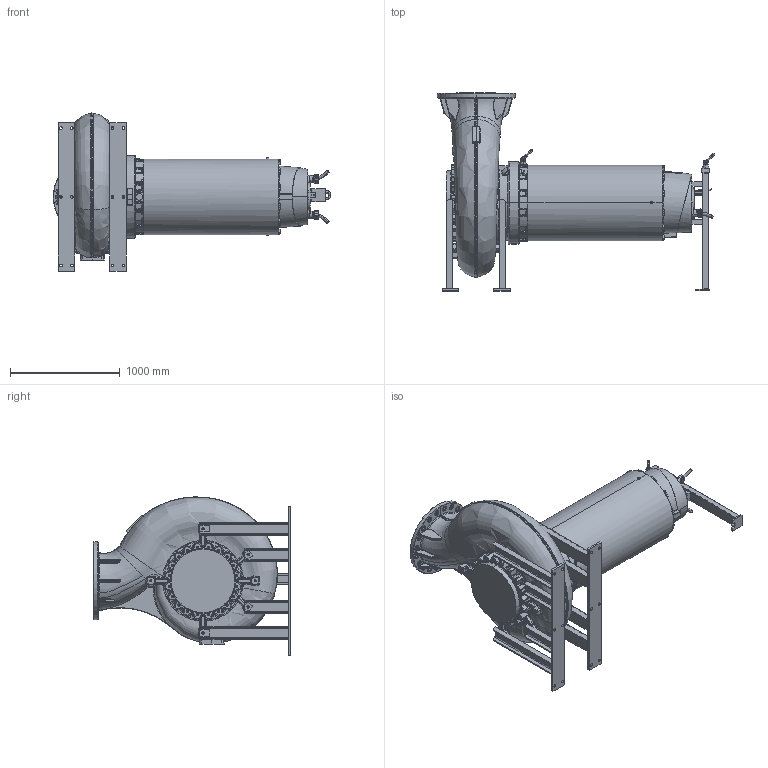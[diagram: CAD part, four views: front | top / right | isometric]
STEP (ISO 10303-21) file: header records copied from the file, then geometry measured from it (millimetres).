
FILE_DESCRIPTION (( 'STEP AP214' ), '1' );
FILE_NAME ('1PE7_XFP500U-CH3_DRY HA_A.STEP', '2017-03-31T09:49:48', ( '' ), ( '' ), 'SwSTEP 2.0', 'SolidWorks 2017', '' );
FILE_SCHEMA (( 'AUTOMOTIVE_DESIGN' ));
Length unit declared in the file: millimetre
Products named in the file (1): 1PE7_XFP500U-CH3_DRY HA_A
Bounding box: 2525.5 x 1800 x 1438.25 mm (x, y, z)
Volume: 1205342643.2 mm3; surface area: 13276192.3 mm2
Topology: 6 solids, 18 shells, 4358 faces, 10550 edges, 6108 vertices
Faces by surface type: bspline 1192, plane 1056, cylinder 950, cone 483, torus 470, sphere 207
Entity records: 267193 total; most frequent: CARTESIAN_POINT 127422, ORIENTED_EDGE 20606, DIRECTION 17394, EDGE_CURVE 10303, AXIS2_PLACEMENT_3D 7046, VERTEX_POINT 6104, EDGE_LOOP 4627, UNCERTAINTY_MEASURE_WITH_UNIT 4366
